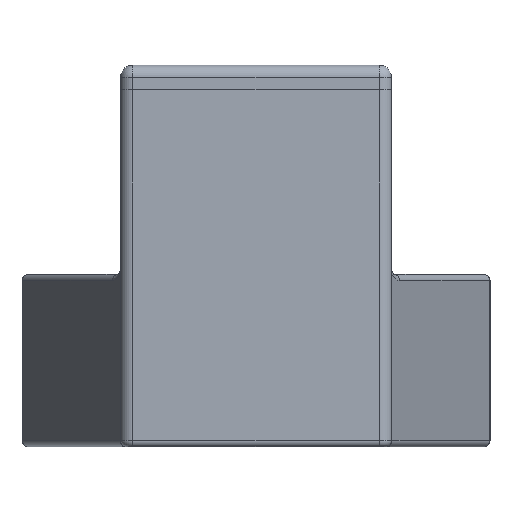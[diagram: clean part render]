
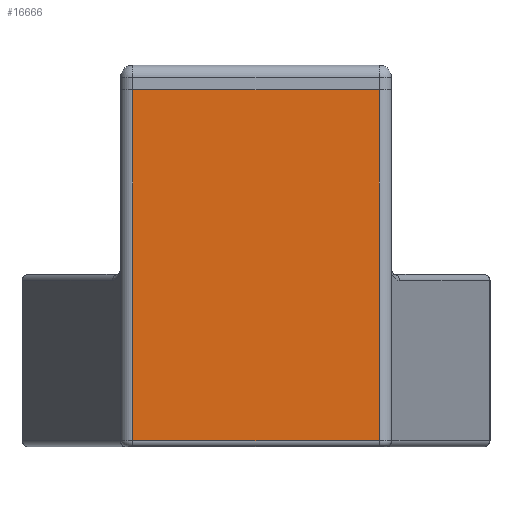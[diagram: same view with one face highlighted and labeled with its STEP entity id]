
A CAD part, front view. The second image highlights one B-rep face of the part: STEP entity #16666.
In plain terms, the highlighted planar face has unit normal (0, -1, 0).
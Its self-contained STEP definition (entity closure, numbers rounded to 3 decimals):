
#116 = CARTESIAN_POINT ( 'NONE',  ( -10., -30., 7. ) ) ;
#953 = VERTEX_POINT ( 'NONE', #14987 ) ;
#1423 = DIRECTION ( 'NONE',  ( 1., 0., 0. ) ) ;
#1506 = CARTESIAN_POINT ( 'NONE',  ( -11., -30., -6.5 ) ) ;
#2844 = DIRECTION ( 'NONE',  ( 0., 0., -1. ) ) ;
#3477 = ORIENTED_EDGE ( 'NONE', *, *, #8940, .F. ) ;
#3970 = VECTOR ( 'NONE', #2844, 1000. ) ;
#4417 = EDGE_LOOP ( 'NONE', ( #7150, #5821, #14408, #3477 ) ) ;
#4586 = CARTESIAN_POINT ( 'NONE',  ( -10., -30., -6.5 ) ) ;
#5821 = ORIENTED_EDGE ( 'NONE', *, *, #10968, .T. ) ;
#6171 = LINE ( 'NONE', #15361, #11960 ) ;
#6341 = DIRECTION ( 'NONE',  ( 0., 0., 1. ) ) ;
#7150 = ORIENTED_EDGE ( 'NONE', *, *, #12411, .T. ) ;
#7825 = LINE ( 'NONE', #116, #3970 ) ;
#8233 = CARTESIAN_POINT ( 'NONE',  ( -10., -30., 22. ) ) ;
#8940 = EDGE_CURVE ( 'NONE', #14491, #953, #16131, .T. ) ;
#9331 = DIRECTION ( 'NONE',  ( -1., 0., 0. ) ) ;
#9648 = PLANE ( 'NONE',  #14844 ) ;
#9719 = VECTOR ( 'NONE', #1423, 1000. ) ;
#9744 = VECTOR ( 'NONE', #12138, 1000. ) ;
#9812 = EDGE_CURVE ( 'NONE', #12760, #953, #6171, .T. ) ;
#10761 = CARTESIAN_POINT ( 'NONE',  ( -11., -30., 22. ) ) ;
#10968 = EDGE_CURVE ( 'NONE', #12805, #12760, #14577, .T. ) ;
#11172 = CARTESIAN_POINT ( 'NONE',  ( 10., -30., -6.5 ) ) ;
#11960 = VECTOR ( 'NONE', #6341, 1000. ) ;
#12138 = DIRECTION ( 'NONE',  ( 1., 0., 0. ) ) ;
#12411 = EDGE_CURVE ( 'NONE', #14491, #12805, #7825, .T. ) ;
#12760 = VERTEX_POINT ( 'NONE', #11172 ) ;
#12805 = VERTEX_POINT ( 'NONE', #4586 ) ;
#13398 = DIRECTION ( 'NONE',  ( 0., 1., 0. ) ) ;
#13488 = FACE_OUTER_BOUND ( 'NONE', #4417, .T. ) ;
#14408 = ORIENTED_EDGE ( 'NONE', *, *, #9812, .T. ) ;
#14491 = VERTEX_POINT ( 'NONE', #8233 ) ;
#14577 = LINE ( 'NONE', #1506, #9744 ) ;
#14844 = AXIS2_PLACEMENT_3D ( 'NONE', #14936, #13398, #9331 ) ;
#14936 = CARTESIAN_POINT ( 'NONE',  ( -11., -30., 7. ) ) ;
#14987 = CARTESIAN_POINT ( 'NONE',  ( 10., -30., 22. ) ) ;
#15361 = CARTESIAN_POINT ( 'NONE',  ( 10., -30., 7. ) ) ;
#16131 = LINE ( 'NONE', #10761, #9719 ) ;
#16666 = ADVANCED_FACE ( 'NONE', ( #13488 ), #9648, .F. ) ;
